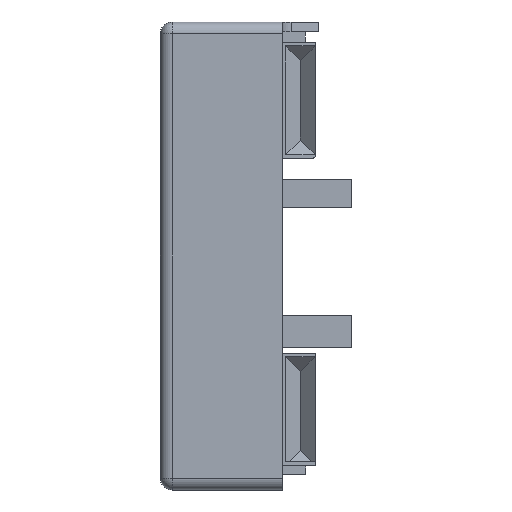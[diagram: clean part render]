
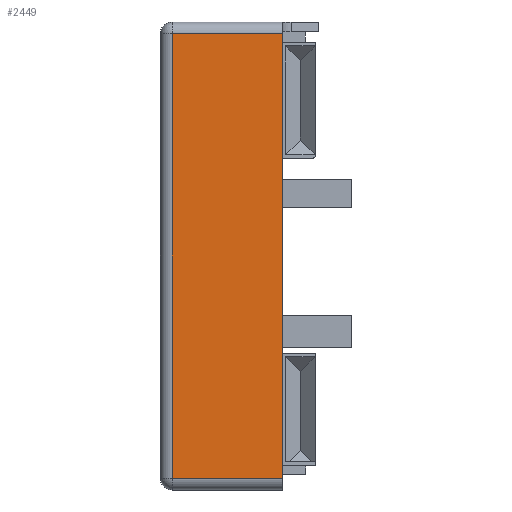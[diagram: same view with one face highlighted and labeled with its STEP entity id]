
A CAD part, left-side view. The second image highlights one B-rep face of the part: STEP entity #2449.
In plain terms, the highlighted planar face has unit normal (-1, 0, 0).
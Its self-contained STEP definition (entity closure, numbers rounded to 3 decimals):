
#67=PLANE('',#2608);
#223=LINE('',#3622,#528);
#245=LINE('',#3673,#550);
#277=LINE('',#3768,#582);
#278=LINE('',#3771,#583);
#528=VECTOR('',#2887,10.);
#550=VECTOR('',#2929,10.);
#582=VECTOR('',#2985,10.);
#583=VECTOR('',#2990,10.);
#807=FACE_OUTER_BOUND('',#945,.T.);
#945=EDGE_LOOP('',(#1934,#1935,#1936,#1937));
#1169=VERTEX_POINT('',#3619);
#1170=VERTEX_POINT('',#3621);
#1189=VERTEX_POINT('',#3672);
#1220=VERTEX_POINT('',#3767);
#1422=EDGE_CURVE('',#1169,#1170,#223,.T.);
#1448=EDGE_CURVE('',#1170,#1189,#245,.T.);
#1488=EDGE_CURVE('',#1189,#1220,#277,.T.);
#1490=EDGE_CURVE('',#1220,#1169,#278,.T.);
#1934=ORIENTED_EDGE('',*,*,#1490,.F.);
#1935=ORIENTED_EDGE('',*,*,#1488,.F.);
#1936=ORIENTED_EDGE('',*,*,#1448,.F.);
#1937=ORIENTED_EDGE('',*,*,#1422,.F.);
#2449=ADVANCED_FACE('',(#807),#67,.T.);
#2608=AXIS2_PLACEMENT_3D('',#3770,#2988,#2989);
#2887=DIRECTION('',(0.,0.,-1.));
#2929=DIRECTION('',(0.,1.,0.));
#2985=DIRECTION('',(0.,0.,1.));
#2988=DIRECTION('center_axis',(-1.,0.,0.));
#2989=DIRECTION('ref_axis',(0.,0.,1.));
#2990=DIRECTION('',(0.,-1.,0.));
#3619=CARTESIAN_POINT('',(-114.7,7.284,55.95));
#3621=CARTESIAN_POINT('',(-114.7,7.284,-0.7));
#3622=CARTESIAN_POINT('',(-114.7,7.284,12.747));
#3672=CARTESIAN_POINT('',(-114.7,21.31,-0.7));
#3673=CARTESIAN_POINT('',(-114.7,-6.,-0.7));
#3767=CARTESIAN_POINT('',(-114.7,21.31,55.95));
#3768=CARTESIAN_POINT('',(-114.7,21.31,12.713));
#3770=CARTESIAN_POINT('Origin',(-114.7,-6.,-2.2));
#3771=CARTESIAN_POINT('',(-114.7,4.355,55.95));
